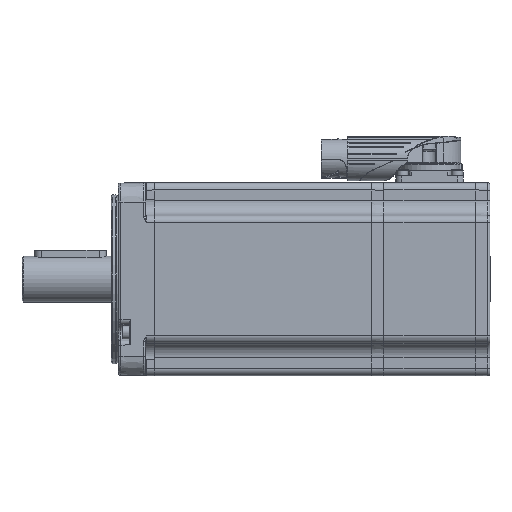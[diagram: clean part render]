
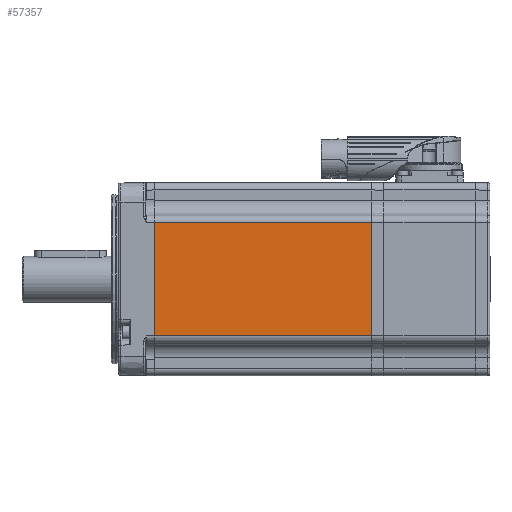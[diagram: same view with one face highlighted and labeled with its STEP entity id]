
A CAD part, left-side view. The second image highlights one B-rep face of the part: STEP entity #57357.
In plain terms, the highlighted planar face has unit normal (-1, 0, 0) as drawn and (0, -1, 0) by its records, which use the part's own axes.
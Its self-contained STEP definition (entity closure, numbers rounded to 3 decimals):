
#2916=LINE('',#75047,#5370);
#2924=LINE('',#75098,#5378);
#2931=LINE('',#75149,#5385);
#2932=LINE('',#75150,#5386);
#5370=VECTOR('',#64267,1000.);
#5378=VECTOR('',#64311,1000.);
#5385=VECTOR('',#64364,1000.);
#5386=VECTOR('',#64365,1000.);
#7817=PLANE('',#60108);
#8871=ORIENTED_EDGE('',*,*,#20877,.T.);
#8872=ORIENTED_EDGE('',*,*,#20855,.T.);
#8873=ORIENTED_EDGE('',*,*,#20878,.T.);
#8874=ORIENTED_EDGE('',*,*,#20830,.T.);
#20830=EDGE_CURVE('',#26837,#26836,#2916,.T.);
#20855=EDGE_CURVE('',#26862,#26861,#2924,.T.);
#20877=EDGE_CURVE('',#26836,#26862,#2931,.F.);
#20878=EDGE_CURVE('',#26861,#26837,#2932,.F.);
#26836=VERTEX_POINT('',#75046);
#26837=VERTEX_POINT('',#75048);
#26861=VERTEX_POINT('',#75097);
#26862=VERTEX_POINT('',#75099);
#32535=EDGE_LOOP('',(#8871,#8872,#8873,#8874));
#35799=FACE_BOUND('',#32535,.T.);
#57357=ADVANCED_FACE('',(#35799),#7817,.T.);
#60108=AXIS2_PLACEMENT_3D('',#75148,#64362,#64363);
#64267=DIRECTION('',(0.,0.,-1.));
#64311=DIRECTION('',(0.,0.,1.));
#64362=DIRECTION('',(0.,-1.,0.));
#64363=DIRECTION('',(0.,0.,-1.));
#64364=DIRECTION('',(-1.,0.,0.));
#64365=DIRECTION('',(1.,0.,0.));
#75046=CARTESIAN_POINT('',(-91.,-40.,-23.5));
#75047=CARTESIAN_POINT('',(-91.,-40.,40.));
#75048=CARTESIAN_POINT('',(-91.,-40.,23.5));
#75097=CARTESIAN_POINT('',(-1.,-40.,23.5));
#75098=CARTESIAN_POINT('',(-1.,-40.,40.));
#75099=CARTESIAN_POINT('',(-1.,-40.,-23.5));
#75148=CARTESIAN_POINT('',(-200.,-40.,40.));
#75149=CARTESIAN_POINT('',(0.,-40.,-23.5));
#75150=CARTESIAN_POINT('',(-200.,-40.,23.5));
